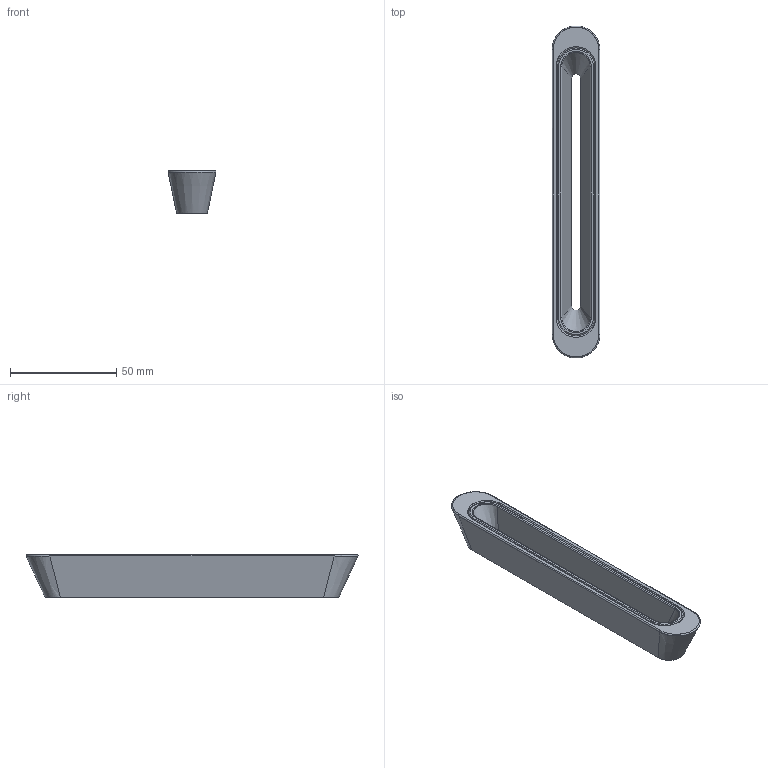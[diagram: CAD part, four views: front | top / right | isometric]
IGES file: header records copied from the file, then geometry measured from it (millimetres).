
Start section: C
Global section: file name: 8188-156.igs; native system: By Siemens PLM Incorporated; preprocessor: XPlus GENERIC/IGES 16.0.42; author: Author; organization: Title; date: 20231119.092520; units: millimetre
Bounding box: 22.5 x 155.99 x 20 mm (x, y, z)
Surface area: 27900.7 mm2 (no closed solid volume)
Topology: 0 solids, 0 shells, 76 faces, 394 edges, 394 vertices
Faces by surface type: bspline 76
